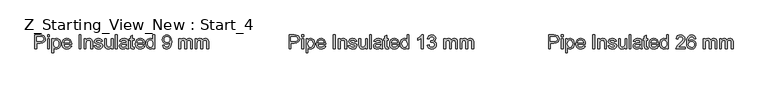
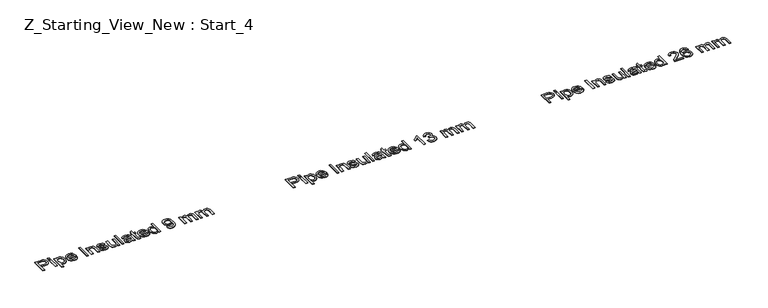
"""IFC4 building model written with IfcOpenShell, lengths in millimetres: pipe fitting geometry, Z_Starting_View_New : Start_4."""

from ifc_helpers import new_model, si_unit, origin, origin_with_axes, place, context, project, spatial, polyline, outline, extrude, source, transform, mapped, element, save


def z_starting_view_new_start_4_8b2e35f7(model_context):
    return source(origin(), model_context, "Body", "SweptSolid", [
        extrude(outline(polyline([(30040.5563046, 7445.7857303), (30040.5563046, 7596.4701955), (30096.4007914, 7596.4701955), (30118.9151695, 7595.0354557), (30137.2172988, 7587.9905155), (30149.0814931, 7573.4223885), (30153.5696535, 7552.8761791), (30150.5392255, 7535.1166757), (30141.4479417, 7520.3186225), (30124.447195, 7510.3306263), (30097.6883784, 7507.0012943), (30059.3918627, 7507.0012943), (30059.3918627, 7445.7857303), (30040.5563046, 7445.7857303)]), holes=[polyline([(30059.3918627, 7525.8368524), (30098.7920244, 7525.8368524), (30115.493867, 7527.5658978), (30126.5303268, 7532.7530339), (30132.6831532, 7541.0763641), (30134.7340953, 7552.2139915), (30129.8964471, 7567.8121881), (30117.1861241, 7576.3470504), (30098.350566, 7577.6346373), (30059.3918627, 7577.6346373), (30059.3918627, 7525.8368524)])]), origin_with_axes(), (0.0, 0.0, 1.0), 5.0),
        extrude(outline(polyline([(30177.1141012, 7445.7857303), (30177.1141012, 7556.4446344), (30195.9496593, 7556.4446344), (30195.9496593, 7445.7857303), (30177.1141012, 7445.7857303)])), origin_with_axes(), (0.0, 0.0, 1.0), 5.0),
        extrude(outline(polyline([(30177.1141012, 7577.6346373), (30177.1141012, 7596.4701955), (30195.9496593, 7596.4701955), (30195.9496593, 7577.6346373), (30177.1141012, 7577.6346373)])), origin_with_axes(), (0.0, 0.0, 1.0), 5.0),
        extrude(outline(polyline([(30224.2029965, 7403.4057244), (30224.2029965, 7556.4446344), (30243.0385547, 7556.4446344), (30243.0385547, 7537.9769583), (30256.0615773, 7553.593549), (30273.6463367, 7558.7990792), (30286.3842508, 7556.9780633), (30297.5218782, 7551.5150157), (30306.5901694, 7542.7410301), (30313.1200748, 7530.9872003), (30318.3807873, 7501.9613109), (30316.8954638, 7485.8526781), (30312.4394931, 7471.4454994), (30305.1554296, 7459.4709405), (30295.1858275, 7450.6601667), (30283.574552, 7445.2385058), (30271.3654683, 7443.4312855), (30254.9763254, 7448.2689337), (30243.0385547, 7460.5010101), (30243.0385547, 7403.4057244), (30224.2029965, 7403.4057244)]), holes=[polyline([(30243.0385547, 7500.2322656), (30245.0757012, 7483.346482), (30251.1871409, 7471.5374699), (30260.2048483, 7464.5845002), (30270.9607981, 7462.2668436), (30281.8914919, 7464.6672737), (30291.1391256, 7471.8685637), (30297.4437033, 7484.1098371), (30299.5452292, 7501.6302171), (30297.494287, 7518.4240302), (30291.3414607, 7530.3985892), (30282.3375488, 7537.5722881), (30271.7333503, 7539.963521), (30261.0877651, 7537.4205367), (30251.7389639, 7529.7915839), (30245.213657, 7517.3157857), (30243.0385547, 7500.2322656)])]), origin_with_axes(), (0.0, 0.0, 1.0), 5.0),
        extrude(outline(polyline([(30417.0467384, 7478.747957), (30435.5144146, 7476.3935123), (30428.860349, 7462.4783758), (30418.2423549, 7452.0765124), (30403.8995556, 7445.5925922), (30386.0710744, 7443.4312855), (30363.9705636, 7447.1606892), (30346.9652183, 7458.3489004), (30336.1218965, 7476.2693521), (30332.5074559, 7500.1954774), (30336.1586847, 7524.9263445), (30347.1123711, 7543.4216118), (30363.8877901, 7554.9547123), (30385.0042166, 7558.7990792), (30405.4630541, 7554.9639094), (30421.8108103, 7543.4584), (30432.5299719, 7524.9999209), (30436.1030258, 7500.305842), (30435.9926612, 7495.2290704), (30351.3430141, 7495.2290704), (30354.6033683, 7481.129993), (30362.1771388, 7470.7649177), (30373.1078326, 7464.3913622), (30386.4389564, 7462.2668436), (30404.9066326, 7466.203181), (30417.0467384, 7478.747957)]), holes=[polyline([(30351.3430141, 7514.0646286), (30417.2674676, 7514.0646286), (30414.7198848, 7524.0158365), (30409.7258867, 7531.1343531), (30398.7446092, 7537.7562291), (30384.9306402, 7539.963521), (30372.2341129, 7538.202286), (30361.7356804, 7532.9185808), (30354.4378214, 7524.6826227), (30351.3430141, 7514.0646286)])]), origin_with_axes(), (0.0, 0.0, 1.0), 5.0),
        extrude(outline(polyline([(30518.5085927, 7445.7857303), (30518.5085927, 7596.4701955), (30537.3441508, 7596.4701955), (30537.3441508, 7445.7857303), (30518.5085927, 7445.7857303)])), origin_with_axes(), (0.0, 0.0, 1.0), 5.0),
        extrude(outline(polyline([(30572.6608224, 7445.7857303), (30572.6608224, 7556.4446344), (30591.4963805, 7556.4446344), (30591.4963805, 7540.9935906), (30605.8989606, 7554.347707), (30625.5622533, 7558.7990792), (30643.3493477, 7555.2122297), (30655.4894536, 7545.7944507), (30661.1364422, 7531.9436935), (30662.1297236, 7513.7335348), (30662.1297236, 7445.7857303), (30643.2941654, 7445.7857303), (30643.2941654, 7511.195149), (30641.1236617, 7527.8602034), (30633.4533221, 7536.6709772), (30620.5222699, 7539.963521), (30609.4904086, 7538.114914), (30600.0864251, 7532.5690929), (30593.6438917, 7521.8545298), (30591.4963805, 7504.4996967), (30591.4963805, 7445.7857303), (30572.6608224, 7445.7857303)])), origin_with_axes(), (0.0, 0.0, 1.0), 5.0),
        extrude(outline(polyline([(30680.9652818, 7478.747957), (30699.8008399, 7481.1024018), (30702.771487, 7473.0457861), (30708.5196432, 7467.122886), (30728.4956355, 7462.2668436), (30747.6990757, 7466.7182158), (30753.9530696, 7477.1660645), (30752.3803741, 7481.9669245), (30747.6622875, 7485.6273503), (30728.2749063, 7490.9984275), (30699.9112045, 7500.2138715), (30687.5319754, 7510.9744198), (30683.3197265, 7526.1679462), (30686.7042409, 7540.2026443), (30695.938079, 7550.9264045), (30707.9126379, 7556.4998167), (30724.1178398, 7558.7990792), (30747.0368881, 7555.1018651), (30761.6050151, 7545.0954749), (30768.0797382, 7528.1912972), (30749.2441801, 7525.8368524), (30742.1624517, 7536.2295188), (30725.5893678, 7539.963521), (30707.56315, 7536.3950657), (30702.1552847, 7528.0809326), (30704.3993648, 7522.5994909), (30711.425911, 7518.4424243), (30727.6495069, 7514.4325106), (30755.2958389, 7505.5665545), (30768.1349205, 7495.523376), (30772.7886278, 7479.1526272), (30767.3255801, 7461.1264095), (30751.5618366, 7448.0482045), (30728.2381181, 7443.4312855), (30709.2462101, 7445.6569716), (30695.386256, 7452.3340298), (30686.1340238, 7463.3888837), (30680.9652818, 7478.747957)])), origin_with_axes(), (0.0, 0.0, 1.0), 5.0),
        extrude(outline(polyline([(30864.6119737, 7445.7857303), (30864.6119737, 7464.8052294), (30849.8599057, 7448.7747715), (30830.6196774, 7443.4312855), (30812.9061593, 7447.1836818), (30800.6924771, 7456.6014609), (30795.0822767, 7470.4706121), (30793.9786307, 7487.9817951), (30793.9786307, 7556.4446344), (30812.8141888, 7556.4446344), (30812.8141888, 7496.8477512), (30813.954623, 7477.644311), (30821.4042334, 7466.3687279), (30835.4389315, 7462.2668436), (30851.1658868, 7466.4606984), (30861.5585532, 7477.8834343), (30864.6119737, 7498.8711022), (30864.6119737, 7556.4446344), (30883.4475319, 7556.4446344), (30883.4475319, 7445.7857303), (30864.6119737, 7445.7857303)])), origin_with_axes(), (0.0, 0.0, 1.0), 5.0),
        extrude(outline(polyline([(30909.3464244, 7445.7857303), (30909.3464244, 7596.4701955), (30928.1819825, 7596.4701955), (30928.1819825, 7445.7857303), (30909.3464244, 7445.7857303)])), origin_with_axes(), (0.0, 0.0, 1.0), 5.0),
        extrude(outline(polyline([(31027.0686628, 7459.9123989), (31008.8033218, 7447.1468936), (30988.6249943, 7443.4312855), (30972.8842435, 7445.6661686), (30961.272968, 7452.370818), (30954.1130646, 7462.5519522), (30951.7264302, 7475.2162899), (30955.3316738, 7490.1155107), (30964.8046351, 7500.9312413), (30977.9932047, 7507.1116589), (30994.290377, 7509.9443502), (31026.9582982, 7516.4190733), (31027.0686628, 7520.6129281), (31025.7718788, 7529.0190317), (31021.8815267, 7534.5188675), (31013.1811175, 7538.6023576), (31001.0594058, 7539.963521), (30982.0031184, 7536.3398834), (30972.9164331, 7523.4824076), (30954.080875, 7525.8368524), (30962.2294612, 7544.2309522), (30978.6369982, 7555.0098946), (31003.4874269, 7558.7990792), (31026.3145047, 7555.451353), (31039.2087687, 7547.0452494), (31044.984516, 7534.2613501), (31045.904221, 7517.7802367), (31045.904221, 7494.3461536), (31046.8607142, 7461.6230502), (31050.6131105, 7445.7857303), (31031.7775524, 7445.7857303), (31027.0686628, 7459.9123989)]), holes=[polyline([(31027.0686628, 7497.5835152), (30996.68161, 7491.8077679), (30980.4764081, 7488.7543473), (30973.1371623, 7483.7879404), (30970.5619884, 7476.5406651), (30976.1721888, 7466.3503338), (30992.6349081, 7462.2668436), (31011.6911954, 7466.7733981), (31023.9784541, 7477.6810992), (31026.9582982, 7492.2492263), (31027.0686628, 7497.5835152)])]), origin_with_axes(), (0.0, 0.0, 1.0), 5.0),
        extrude(outline(polyline([(31111.8286745, 7461.4942915), (31114.1831193, 7445.2339073), (31100.0932389, 7443.4312855), (31084.3111013, 7446.5582825), (31076.4384266, 7454.7620509), (31074.1575582, 7476.1359949), (31074.1575582, 7537.6090763), (31060.0308896, 7537.6090763), (31060.0308896, 7556.4446344), (31074.1575582, 7556.4446344), (31074.1575582, 7583.3368083), (31092.9931164, 7594.4100563), (31092.9931164, 7556.4446344), (31111.8286745, 7556.4446344), (31111.8286745, 7537.6090763), (31092.9931164, 7537.6090763), (31092.9931164, 7476.6878179), (31093.9863977, 7466.9757332), (31097.2053652, 7463.5360365), (31103.624906, 7462.2668436), (31111.8286745, 7461.4942915)])), origin_with_axes(), (0.0, 0.0, 1.0), 5.0),
        extrude(outline(polyline([(31208.1401808, 7478.747957), (31226.607857, 7476.3935123), (31219.9537914, 7462.4783758), (31209.3357973, 7452.0765124), (31194.992998, 7445.5925922), (31177.1645168, 7443.4312855), (31155.064006, 7447.1606892), (31138.0586608, 7458.3489004), (31127.215339, 7476.2693521), (31123.6008984, 7500.1954774), (31127.2521272, 7524.9263445), (31138.2058136, 7543.4216118), (31154.9812325, 7554.9547123), (31176.0976591, 7558.7990792), (31196.5564965, 7554.9639094), (31212.9042527, 7543.4584), (31223.6234143, 7524.9999209), (31227.1964682, 7500.305842), (31227.0861036, 7495.2290704), (31142.4364565, 7495.2290704), (31145.6968107, 7481.129993), (31153.2705813, 7470.7649177), (31164.201275, 7464.3913622), (31177.5323988, 7462.2668436), (31196.000075, 7466.203181), (31208.1401808, 7478.747957)]), holes=[polyline([(31142.4364565, 7514.0646286), (31208.36091, 7514.0646286), (31205.8133272, 7524.0158365), (31200.8193291, 7531.1343531), (31189.8380516, 7537.7562291), (31176.0240827, 7539.963521), (31163.3275553, 7538.202286), (31152.8291229, 7532.9185808), (31145.5312638, 7524.6826227), (31142.4364565, 7514.0646286)])]), origin_with_axes(), (0.0, 0.0, 1.0), 5.0),
        extrude(outline(polyline([(31314.3109247, 7445.7857303), (31314.3109247, 7463.5544306), (31301.8489221, 7448.4620718), (31284.6228476, 7443.4312855), (31272.4459536, 7445.2523014), (31261.2991291, 7450.715349), (31251.862956, 7459.4387508), (31244.8180158, 7471.0408292), (31240.431023, 7485.0525347), (31238.968692, 7501.0048177), (31244.3581633, 7530.9872003), (31251.0904038, 7542.8789858), (31260.5081829, 7551.6253803), (31271.8987291, 7557.0056545), (31284.5492712, 7558.7990792), (31301.9133014, 7553.6671254), (31314.3109247, 7540.331403), (31314.3109247, 7596.4701955), (31333.1464828, 7596.4701955), (31333.1464828, 7445.7857303), (31314.3109247, 7445.7857303)]), holes=[polyline([(31257.8042502, 7501.0783941), (31259.9287687, 7484.0408592), (31266.3023243, 7471.923746), (31275.5637535, 7464.6810692), (31286.351893, 7462.2668436), (31297.135434, 7464.5707046), (31306.1623385, 7471.4822876), (31312.2737781, 7483.1303513), (31314.3109247, 7499.6436544), (31312.2369899, 7517.6974633), (31306.0151857, 7530.2146482), (31296.758355, 7537.5263028), (31285.5793408, 7539.963521), (31274.6808367, 7537.6228718), (31265.7505013, 7530.6009243), (31259.790813, 7518.5389933), (31257.8042502, 7501.0783941)])]), origin_with_axes(), (0.0, 0.0, 1.0), 5.0),
        extrude(outline(polyline([(31486.1853928, 7445.7857303), (31467.3498346, 7445.7857303), (31467.3498346, 7563.2136631), (31449.5075579, 7550.5033402), (31429.6787183, 7540.9935906), (31429.6787183, 7558.7990792), (31457.2882621, 7576.4206268), (31474.045287, 7596.4701955), (31486.1853928, 7596.4701955), (31486.1853928, 7445.7857303)])), origin_with_axes(), (0.0, 0.0, 1.0), 5.0),
        extrude(outline(polyline([(31530.9198434, 7485.8112913), (31549.7554016, 7488.1657361), (31553.9722489, 7476.3291329), (31560.1480679, 7468.3368966), (31568.5863612, 7463.7843569), (31579.5906314, 7462.2668436), (31592.5032894, 7464.354574), (31602.4728915, 7470.6177649), (31608.846447, 7479.9619676), (31610.9709656, 7491.2927331), (31608.8648411, 7502.0486829), (31602.5464679, 7510.7720847), (31592.981536, 7516.5524306), (31581.1357358, 7518.4792125), (31567.9287721, 7516.4190733), (31570.0256995, 7535.2546315), (31573.0423319, 7535.0339023), (31594.4162758, 7540.4417676), (31601.5347924, 7547.3027668), (31603.9076313, 7557.0700338), (31602.1877829, 7565.2048244), (31597.0282379, 7571.8037077), (31589.1555632, 7576.1769049), (31579.2963258, 7577.6346373), (31569.4186942, 7576.1631094), (31561.3436844, 7571.7485254), (31555.4483754, 7564.3908855), (31552.1098463, 7554.0901896), (31533.2742882, 7556.4446344), (31538.8201093, 7573.3580091), (31548.6885438, 7585.9855586), (31562.189813, 7593.8490363), (31578.6341382, 7596.4701955), (31601.3508514, 7591.3014535), (31617.2433536, 7577.1747848), (31622.7431894, 7558.1736798), (31617.5192651, 7540.8096496), (31602.0682213, 7528.33845), (31613.8588392, 7523.5743781), (31622.5960366, 7515.4625802), (31628.0039019, 7504.4445144), (31629.8065237, 7490.9616393), (31626.2012802, 7472.6043277), (31615.3855495, 7457.2636485), (31599.060786, 7446.8893763), (31578.9284438, 7443.4312855), (31560.718285, 7446.3835385), (31545.8926406, 7455.2402975), (31535.5827477, 7468.787552), (31530.9198434, 7485.8112913)])), origin_with_axes(), (0.0, 0.0, 1.0), 5.0),
        extrude(outline(polyline([(31709.8576459, 7445.7857303), (31709.8576459, 7556.4446344), (31728.693204, 7556.4446344), (31728.693204, 7538.2344757), (31741.6426502, 7553.1520906), (31760.0735382, 7558.7990792), (31770.548978, 7557.3597409), (31778.9458846, 7553.041726), (31789.3201568, 7536.9101005), (31804.0170425, 7553.3268345), (31822.5766892, 7558.7990792), (31836.7355475, 7556.5228093), (31847.2063888, 7549.6939998), (31853.6765134, 7538.1287096), (31855.8332216, 7521.6429977), (31855.8332216, 7445.7857303), (31836.9976634, 7445.7857303), (31836.9976634, 7513.5495938), (31835.2502239, 7529.2765491), (31828.9226536, 7537.0204651), (31818.1621052, 7539.963521), (31807.9579784, 7538.0781258), (31799.6392468, 7532.4219401), (31794.1072213, 7522.6086879), (31792.2632128, 7508.252093), (31792.2632128, 7445.7857303), (31773.4276546, 7445.7857303), (31773.4276546, 7515.6465212), (31769.068253, 7533.8934681), (31763.3154983, 7538.4460078), (31754.7760375, 7539.963521), (31740.8333099, 7535.9168191), (31731.5626836, 7524.0710188), (31728.693204, 7501.5934289), (31728.693204, 7445.7857303), (31709.8576459, 7445.7857303)])), origin_with_axes(), (0.0, 0.0, 1.0), 5.0),
        extrude(outline(polyline([(31884.0865588, 7445.7857303), (31884.0865588, 7556.4446344), (31902.9221169, 7556.4446344), (31902.9221169, 7538.2344757), (31915.8715632, 7553.1520906), (31934.3024511, 7558.7990792), (31944.7778909, 7557.3597409), (31953.1747975, 7553.041726), (31963.5490697, 7536.9101005), (31978.2459554, 7553.3268345), (31996.8056021, 7558.7990792), (32010.9644604, 7556.5228093), (32021.4353017, 7549.6939998), (32027.9054263, 7538.1287096), (32030.0621345, 7521.6429977), (32030.0621345, 7445.7857303), (32011.2265763, 7445.7857303), (32011.2265763, 7513.5495938), (32009.4791368, 7529.2765491), (32003.1515665, 7537.0204651), (31992.3910182, 7539.963521), (31982.1868913, 7538.0781258), (31973.8681597, 7532.4219401), (31968.3361342, 7522.6086879), (31966.4921257, 7508.252093), (31966.4921257, 7445.7857303), (31947.6565675, 7445.7857303), (31947.6565675, 7515.6465212), (31943.2971659, 7533.8934681), (31937.5444112, 7538.4460078), (31929.0049504, 7539.963521), (31915.0622228, 7535.9168191), (31905.7915965, 7524.0710188), (31902.9221169, 7501.5934289), (31902.9221169, 7445.7857303), (31884.0865588, 7445.7857303)])), origin_with_axes(), (0.0, 0.0, 1.0), 5.0),
        extrude(outline(polyline([(32840.5563046, 7445.7857303), (32840.5563046, 7596.4701955), (32896.4007914, 7596.4701955), (32918.9151695, 7595.0354557), (32937.2172988, 7587.9905155), (32949.0814931, 7573.4223885), (32953.5696535, 7552.8761791), (32950.5392255, 7535.1166757), (32941.4479417, 7520.3186225), (32924.447195, 7510.3306263), (32897.6883784, 7507.0012943), (32859.3918627, 7507.0012943), (32859.3918627, 7445.7857303), (32840.5563046, 7445.7857303)]), holes=[polyline([(32859.3918627, 7525.8368524), (32898.7920244, 7525.8368524), (32915.493867, 7527.5658978), (32926.5303268, 7532.7530339), (32932.6831532, 7541.0763641), (32934.7340953, 7552.2139915), (32929.8964471, 7567.8121881), (32917.1861241, 7576.3470504), (32898.350566, 7577.6346373), (32859.3918627, 7577.6346373), (32859.3918627, 7525.8368524)])]), origin_with_axes(), (0.0, 0.0, 1.0), 5.0),
        extrude(outline(polyline([(32977.1141012, 7445.7857303), (32977.1141012, 7556.4446344), (32995.9496593, 7556.4446344), (32995.9496593, 7445.7857303), (32977.1141012, 7445.7857303)])), origin_with_axes(), (0.0, 0.0, 1.0), 5.0),
        extrude(outline(polyline([(32977.1141012, 7577.6346373), (32977.1141012, 7596.4701955), (32995.9496593, 7596.4701955), (32995.9496593, 7577.6346373), (32977.1141012, 7577.6346373)])), origin_with_axes(), (0.0, 0.0, 1.0), 5.0),
        extrude(outline(polyline([(33024.2029965, 7403.4057244), (33024.2029965, 7556.4446344), (33043.0385547, 7556.4446344), (33043.0385547, 7537.9769583), (33056.0615773, 7553.593549), (33073.6463367, 7558.7990792), (33086.3842508, 7556.9780633), (33097.5218782, 7551.5150157), (33106.5901694, 7542.7410301), (33113.1200748, 7530.9872003), (33118.3807873, 7501.9613109), (33116.8954638, 7485.8526781), (33112.4394931, 7471.4454994), (33105.1554296, 7459.4709405), (33095.1858275, 7450.6601667), (33083.574552, 7445.2385058), (33071.3654683, 7443.4312855), (33054.9763254, 7448.2689337), (33043.0385547, 7460.5010101), (33043.0385547, 7403.4057244), (33024.2029965, 7403.4057244)]), holes=[polyline([(33043.0385547, 7500.2322656), (33045.0757012, 7483.346482), (33051.1871409, 7471.5374699), (33060.2048483, 7464.5845002), (33070.9607981, 7462.2668436), (33081.8914919, 7464.6672737), (33091.1391256, 7471.8685637), (33097.4437033, 7484.1098371), (33099.5452292, 7501.6302171), (33097.494287, 7518.4240302), (33091.3414607, 7530.3985892), (33082.3375488, 7537.5722881), (33071.7333503, 7539.963521), (33061.0877651, 7537.4205367), (33051.7389639, 7529.7915839), (33045.213657, 7517.3157857), (33043.0385547, 7500.2322656)])]), origin_with_axes(), (0.0, 0.0, 1.0), 5.0),
        extrude(outline(polyline([(33217.0467384, 7478.747957), (33235.5144146, 7476.3935123), (33228.860349, 7462.4783758), (33218.2423549, 7452.0765124), (33203.8995556, 7445.5925922), (33186.0710744, 7443.4312855), (33163.9705636, 7447.1606892), (33146.9652183, 7458.3489004), (33136.1218965, 7476.2693521), (33132.5074559, 7500.1954774), (33136.1586847, 7524.9263445), (33147.1123711, 7543.4216118), (33163.8877901, 7554.9547123), (33185.0042166, 7558.7990792), (33205.4630541, 7554.9639094), (33221.8108103, 7543.4584), (33232.5299719, 7524.9999209), (33236.1030258, 7500.305842), (33235.9926612, 7495.2290704), (33151.3430141, 7495.2290704), (33154.6033683, 7481.129993), (33162.1771388, 7470.7649177), (33173.1078326, 7464.3913622), (33186.4389564, 7462.2668436), (33204.9066326, 7466.203181), (33217.0467384, 7478.747957)]), holes=[polyline([(33151.3430141, 7514.0646286), (33217.2674676, 7514.0646286), (33214.7198848, 7524.0158365), (33209.7258867, 7531.1343531), (33198.7446092, 7537.7562291), (33184.9306402, 7539.963521), (33172.2341129, 7538.202286), (33161.7356804, 7532.9185808), (33154.4378214, 7524.6826227), (33151.3430141, 7514.0646286)])]), origin_with_axes(), (0.0, 0.0, 1.0), 5.0),
        extrude(outline(polyline([(33318.5085927, 7445.7857303), (33318.5085927, 7596.4701955), (33337.3441508, 7596.4701955), (33337.3441508, 7445.7857303), (33318.5085927, 7445.7857303)])), origin_with_axes(), (0.0, 0.0, 1.0), 5.0),
        extrude(outline(polyline([(33372.6608224, 7445.7857303), (33372.6608224, 7556.4446344), (33391.4963805, 7556.4446344), (33391.4963805, 7540.9935906), (33405.8989606, 7554.347707), (33425.5622533, 7558.7990792), (33443.3493477, 7555.2122297), (33455.4894536, 7545.7944507), (33461.1364422, 7531.9436935), (33462.1297236, 7513.7335348), (33462.1297236, 7445.7857303), (33443.2941654, 7445.7857303), (33443.2941654, 7511.195149), (33441.1236617, 7527.8602034), (33433.4533221, 7536.6709772), (33420.5222699, 7539.963521), (33409.4904086, 7538.114914), (33400.0864251, 7532.5690929), (33393.6438917, 7521.8545298), (33391.4963805, 7504.4996967), (33391.4963805, 7445.7857303), (33372.6608224, 7445.7857303)])), origin_with_axes(), (0.0, 0.0, 1.0), 5.0),
        extrude(outline(polyline([(33480.9652818, 7478.747957), (33499.8008399, 7481.1024018), (33502.771487, 7473.0457861), (33508.5196432, 7467.122886), (33528.4956355, 7462.2668436), (33547.6990757, 7466.7182158), (33553.9530696, 7477.1660645), (33552.3803741, 7481.9669245), (33547.6622875, 7485.6273503), (33528.2749063, 7490.9984275), (33499.9112045, 7500.2138715), (33487.5319754, 7510.9744198), (33483.3197265, 7526.1679462), (33486.7042409, 7540.2026443), (33495.938079, 7550.9264045), (33507.9126379, 7556.4998167), (33524.1178398, 7558.7990792), (33547.0368881, 7555.1018651), (33561.6050151, 7545.0954749), (33568.0797382, 7528.1912972), (33549.2441801, 7525.8368524), (33542.1624517, 7536.2295188), (33525.5893678, 7539.963521), (33507.56315, 7536.3950657), (33502.1552847, 7528.0809326), (33504.3993648, 7522.5994909), (33511.425911, 7518.4424243), (33527.6495069, 7514.4325106), (33555.2958389, 7505.5665545), (33568.1349205, 7495.523376), (33572.7886278, 7479.1526272), (33567.3255801, 7461.1264095), (33551.5618366, 7448.0482045), (33528.2381181, 7443.4312855), (33509.2462101, 7445.6569716), (33495.386256, 7452.3340298), (33486.1340238, 7463.3888837), (33480.9652818, 7478.747957)])), origin_with_axes(), (0.0, 0.0, 1.0), 5.0),
        extrude(outline(polyline([(33664.6119737, 7445.7857303), (33664.6119737, 7464.8052294), (33649.8599057, 7448.7747715), (33630.6196774, 7443.4312855), (33612.9061593, 7447.1836818), (33600.6924771, 7456.6014609), (33595.0822767, 7470.4706121), (33593.9786307, 7487.9817951), (33593.9786307, 7556.4446344), (33612.8141888, 7556.4446344), (33612.8141888, 7496.8477512), (33613.954623, 7477.644311), (33621.4042334, 7466.3687279), (33635.4389315, 7462.2668436), (33651.1658868, 7466.4606984), (33661.5585532, 7477.8834343), (33664.6119737, 7498.8711022), (33664.6119737, 7556.4446344), (33683.4475319, 7556.4446344), (33683.4475319, 7445.7857303), (33664.6119737, 7445.7857303)])), origin_with_axes(), (0.0, 0.0, 1.0), 5.0),
        extrude(outline(polyline([(33709.3464244, 7445.7857303), (33709.3464244, 7596.4701955), (33728.1819825, 7596.4701955), (33728.1819825, 7445.7857303), (33709.3464244, 7445.7857303)])), origin_with_axes(), (0.0, 0.0, 1.0), 5.0),
        extrude(outline(polyline([(33827.0686628, 7459.9123989), (33808.8033218, 7447.1468936), (33788.6249943, 7443.4312855), (33772.8842435, 7445.6661686), (33761.272968, 7452.370818), (33754.1130646, 7462.5519522), (33751.7264302, 7475.2162899), (33755.3316738, 7490.1155107), (33764.8046351, 7500.9312413), (33777.9932047, 7507.1116589), (33794.290377, 7509.9443502), (33826.9582982, 7516.4190733), (33827.0686628, 7520.6129281), (33825.7718788, 7529.0190317), (33821.8815267, 7534.5188675), (33813.1811175, 7538.6023576), (33801.0594058, 7539.963521), (33782.0031184, 7536.3398834), (33772.9164331, 7523.4824076), (33754.080875, 7525.8368524), (33762.2294612, 7544.2309522), (33778.6369982, 7555.0098946), (33803.4874269, 7558.7990792), (33826.3145047, 7555.451353), (33839.2087687, 7547.0452494), (33844.984516, 7534.2613501), (33845.904221, 7517.7802367), (33845.904221, 7494.3461536), (33846.8607142, 7461.6230502), (33850.6131105, 7445.7857303), (33831.7775524, 7445.7857303), (33827.0686628, 7459.9123989)]), holes=[polyline([(33827.0686628, 7497.5835152), (33796.68161, 7491.8077679), (33780.4764081, 7488.7543473), (33773.1371623, 7483.7879404), (33770.5619884, 7476.5406651), (33776.1721888, 7466.3503338), (33792.6349081, 7462.2668436), (33811.6911954, 7466.7733981), (33823.9784541, 7477.6810992), (33826.9582982, 7492.2492263), (33827.0686628, 7497.5835152)])]), origin_with_axes(), (0.0, 0.0, 1.0), 5.0),
        extrude(outline(polyline([(33911.8286745, 7461.4942915), (33914.1831193, 7445.2339073), (33900.0932389, 7443.4312855), (33884.3111013, 7446.5582825), (33876.4384266, 7454.7620509), (33874.1575582, 7476.1359949), (33874.1575582, 7537.6090763), (33860.0308896, 7537.6090763), (33860.0308896, 7556.4446344), (33874.1575582, 7556.4446344), (33874.1575582, 7583.3368083), (33892.9931164, 7594.4100563), (33892.9931164, 7556.4446344), (33911.8286745, 7556.4446344), (33911.8286745, 7537.6090763), (33892.9931164, 7537.6090763), (33892.9931164, 7476.6878179), (33893.9863977, 7466.9757332), (33897.2053652, 7463.5360365), (33903.624906, 7462.2668436), (33911.8286745, 7461.4942915)])), origin_with_axes(), (0.0, 0.0, 1.0), 5.0),
        extrude(outline(polyline([(34008.1401808, 7478.747957), (34026.607857, 7476.3935123), (34019.9537914, 7462.4783758), (34009.3357973, 7452.0765124), (33994.992998, 7445.5925922), (33977.1645168, 7443.4312855), (33955.064006, 7447.1606892), (33938.0586608, 7458.3489004), (33927.215339, 7476.2693521), (33923.6008984, 7500.1954774), (33927.2521272, 7524.9263445), (33938.2058136, 7543.4216118), (33954.9812325, 7554.9547123), (33976.0976591, 7558.7990792), (33996.5564965, 7554.9639094), (34012.9042527, 7543.4584), (34023.6234143, 7524.9999209), (34027.1964682, 7500.305842), (34027.0861036, 7495.2290704), (33942.4364565, 7495.2290704), (33945.6968107, 7481.129993), (33953.2705813, 7470.7649177), (33964.201275, 7464.3913622), (33977.5323988, 7462.2668436), (33996.000075, 7466.203181), (34008.1401808, 7478.747957)]), holes=[polyline([(33942.4364565, 7514.0646286), (34008.36091, 7514.0646286), (34005.8133272, 7524.0158365), (34000.8193291, 7531.1343531), (33989.8380516, 7537.7562291), (33976.0240827, 7539.963521), (33963.3275553, 7538.202286), (33952.8291229, 7532.9185808), (33945.5312638, 7524.6826227), (33942.4364565, 7514.0646286)])]), origin_with_axes(), (0.0, 0.0, 1.0), 5.0),
        extrude(outline(polyline([(34114.3109247, 7445.7857303), (34114.3109247, 7463.5544306), (34101.8489221, 7448.4620718), (34084.6228476, 7443.4312855), (34072.4459536, 7445.2523014), (34061.2991291, 7450.715349), (34051.862956, 7459.4387508), (34044.8180158, 7471.0408292), (34040.431023, 7485.0525347), (34038.968692, 7501.0048177), (34044.3581633, 7530.9872003), (34051.0904038, 7542.8789858), (34060.5081829, 7551.6253803), (34071.8987291, 7557.0056545), (34084.5492712, 7558.7990792), (34101.9133014, 7553.6671254), (34114.3109247, 7540.331403), (34114.3109247, 7596.4701955), (34133.1464828, 7596.4701955), (34133.1464828, 7445.7857303), (34114.3109247, 7445.7857303)]), holes=[polyline([(34057.8042502, 7501.0783941), (34059.9287687, 7484.0408592), (34066.3023243, 7471.923746), (34075.5637535, 7464.6810692), (34086.351893, 7462.2668436), (34097.135434, 7464.5707046), (34106.1623385, 7471.4822876), (34112.2737781, 7483.1303513), (34114.3109247, 7499.6436544), (34112.2369899, 7517.6974633), (34106.0151857, 7530.2146482), (34096.758355, 7537.5263028), (34085.5793408, 7539.963521), (34074.6808367, 7537.6228718), (34065.7505013, 7530.6009243), (34059.790813, 7518.5389933), (34057.8042502, 7501.0783941)])]), origin_with_axes(), (0.0, 0.0, 1.0), 5.0),
        extrude(outline(polyline([(34312.0842853, 7464.6212884), (34312.0842853, 7445.7857303), (34213.197605, 7445.7857303), (34215.2209559, 7458.7719647), (34226.662086, 7478.7663511), (34250.2433219, 7500.6001475), (34282.7640902, 7531.9804817), (34288.8617343, 7542.7962124), (34290.8942823, 7553.3176375), (34288.9766974, 7562.7492121), (34283.2239427, 7570.5896971), (34274.3809793, 7575.8734023), (34263.1927681, 7577.6346373), (34251.4435369, 7575.914789), (34242.3154649, 7570.755244), (34236.4247544, 7562.5606726), (34234.3876079, 7551.7357449), (34215.5520497, 7554.0901896), (34220.118385, 7572.3095455), (34229.991418, 7585.6176766), (34244.6561141, 7593.7570658), (34263.5974383, 7596.4701955), (34282.6767183, 7593.4535631), (34297.3138232, 7584.403666), (34306.6258362, 7570.8840027), (34309.7298405, 7554.4580716), (34306.3821143, 7536.5974008), (34295.253684, 7518.1297246), (34268.2695396, 7492.3228027), (34246.6012901, 7474.2046144), (34238.103216, 7464.6212884), (34312.0842853, 7464.6212884)])), origin_with_axes(), (0.0, 0.0, 1.0), 5.0),
        extrude(outline(polyline([(34427.4520789, 7556.4446344), (34408.6165208, 7554.0901896), (34401.4796101, 7569.7987508), (34392.9355507, 7575.6756657), (34382.6072637, 7577.6346373), (34365.6111156, 7573.0729006), (34352.7536398, 7555.9479937), (34348.8494922, 7541.9178941), (34347.4009568, 7522.3787617), (34364.0108289, 7537.4067412), (34384.5938265, 7542.3179658), (34401.9946449, 7538.9610426), (34416.5995601, 7528.890273), (34426.5047828, 7513.5036085), (34429.8065237, 7494.1990008), (34428.2522223, 7480.7115272), (34423.589318, 7468.2081379), (34416.2040869, 7457.6039394), (34406.4828052, 7449.8140381), (34394.8669312, 7445.0269737), (34381.7979233, 7443.4312855), (34360.4285779, 7447.6619284), (34343.4094371, 7460.3538573), (34332.2764083, 7482.7578708), (34328.5653986, 7516.1247677), (34332.685677, 7553.6395342), (34345.046512, 7579.2901063), (34361.9230986, 7592.1751732), (34383.7844861, 7596.4701955), (34400.3115848, 7593.8122481), (34413.5461395, 7585.8384058), (34422.8167658, 7573.1740681), (34427.4520789, 7556.4446344)]), holes=[polyline([(34347.4009568, 7494.4933064), (34351.7603584, 7478.1777399), (34363.3486413, 7466.3319397), (34380.3263954, 7462.2668436), (34392.7562083, 7464.3729681), (34402.5280738, 7470.6913413), (34408.8602426, 7480.6241552), (34410.9709656, 7493.5736014), (34408.8878338, 7506.0034144), (34402.6384384, 7515.4809743), (34392.701026, 7521.4820493), (34379.5538432, 7523.4824076), (34367.1424244, 7521.4820493), (34356.7635536, 7515.4809743), (34349.741606, 7506.2333406), (34347.4009568, 7494.4933064)])]), origin_with_axes(), (0.0, 0.0, 1.0), 5.0),
        extrude(outline(polyline([(34509.8576459, 7445.7857303), (34509.8576459, 7556.4446344), (34528.693204, 7556.4446344), (34528.693204, 7538.2344757), (34541.6426502, 7553.1520906), (34560.0735382, 7558.7990792), (34570.548978, 7557.3597409), (34578.9458846, 7553.041726), (34589.3201568, 7536.9101005), (34604.0170425, 7553.3268345), (34622.5766892, 7558.7990792), (34636.7355475, 7556.5228093), (34647.2063888, 7549.6939998), (34653.6765134, 7538.1287096), (34655.8332216, 7521.6429977), (34655.8332216, 7445.7857303), (34636.9976634, 7445.7857303), (34636.9976634, 7513.5495938), (34635.2502239, 7529.2765491), (34628.9226536, 7537.0204651), (34618.1621052, 7539.963521), (34607.9579784, 7538.0781258), (34599.6392468, 7532.4219401), (34594.1072213, 7522.6086879), (34592.2632128, 7508.252093), (34592.2632128, 7445.7857303), (34573.4276546, 7445.7857303), (34573.4276546, 7515.6465212), (34569.068253, 7533.8934681), (34563.3154983, 7538.4460078), (34554.7760375, 7539.963521), (34540.8333099, 7535.9168191), (34531.5626836, 7524.0710188), (34528.693204, 7501.5934289), (34528.693204, 7445.7857303), (34509.8576459, 7445.7857303)])), origin_with_axes(), (0.0, 0.0, 1.0), 5.0),
        extrude(outline(polyline([(34684.0865588, 7445.7857303), (34684.0865588, 7556.4446344), (34702.9221169, 7556.4446344), (34702.9221169, 7538.2344757), (34715.8715632, 7553.1520906), (34734.3024511, 7558.7990792), (34744.7778909, 7557.3597409), (34753.1747975, 7553.041726), (34763.5490697, 7536.9101005), (34778.2459554, 7553.3268345), (34796.8056021, 7558.7990792), (34810.9644604, 7556.5228093), (34821.4353017, 7549.6939998), (34827.9054263, 7538.1287096), (34830.0621345, 7521.6429977), (34830.0621345, 7445.7857303), (34811.2265763, 7445.7857303), (34811.2265763, 7513.5495938), (34809.4791368, 7529.2765491), (34803.1515665, 7537.0204651), (34792.3910182, 7539.963521), (34782.1868913, 7538.0781258), (34773.8681597, 7532.4219401), (34768.3361342, 7522.6086879), (34766.4921257, 7508.252093), (34766.4921257, 7445.7857303), (34747.6565675, 7445.7857303), (34747.6565675, 7515.6465212), (34743.2971659, 7533.8934681), (34737.5444112, 7538.4460078), (34729.0049504, 7539.963521), (34715.0622228, 7535.9168191), (34705.7915965, 7524.0710188), (34702.9221169, 7501.5934289), (34702.9221169, 7445.7857303), (34684.0865588, 7445.7857303)])), origin_with_axes(), (0.0, 0.0, 1.0), 5.0),
        extrude(outline(polyline([(27298.2402014, 7445.7857303), (27298.2402014, 7596.4701955), (27354.0846883, 7596.4701955), (27376.5990664, 7595.0354557), (27394.9011956, 7587.9905155), (27406.76539, 7573.4223885), (27411.2535503, 7552.8761791), (27408.2231224, 7535.1166757), (27399.1318386, 7520.3186225), (27382.1310919, 7510.3306263), (27355.3722752, 7507.0012943), (27317.0757595, 7507.0012943), (27317.0757595, 7445.7857303), (27298.2402014, 7445.7857303)]), holes=[polyline([(27317.0757595, 7525.8368524), (27356.4759212, 7525.8368524), (27373.1777638, 7527.5658978), (27384.2142237, 7532.7530339), (27390.36705, 7541.0763641), (27392.4179922, 7552.2139915), (27387.5803439, 7567.8121881), (27374.870021, 7576.3470504), (27356.0344628, 7577.6346373), (27317.0757595, 7577.6346373), (27317.0757595, 7525.8368524)])]), origin_with_axes(), (0.0, 0.0, 1.0), 5.0),
        extrude(outline(polyline([(27434.797998, 7445.7857303), (27434.797998, 7556.4446344), (27453.6335562, 7556.4446344), (27453.6335562, 7445.7857303), (27434.797998, 7445.7857303)])), origin_with_axes(), (0.0, 0.0, 1.0), 5.0),
        extrude(outline(polyline([(27434.797998, 7577.6346373), (27434.797998, 7596.4701955), (27453.6335562, 7596.4701955), (27453.6335562, 7577.6346373), (27434.797998, 7577.6346373)])), origin_with_axes(), (0.0, 0.0, 1.0), 5.0),
        extrude(outline(polyline([(27481.8868934, 7403.4057244), (27481.8868934, 7556.4446344), (27500.7224515, 7556.4446344), (27500.7224515, 7537.9769583), (27513.7454742, 7553.593549), (27531.3302335, 7558.7990792), (27544.0681476, 7556.9780633), (27555.205775, 7551.5150157), (27564.2740662, 7542.7410301), (27570.8039716, 7530.9872003), (27576.0646842, 7501.9613109), (27574.5793606, 7485.8526781), (27570.1233899, 7471.4454994), (27562.8393264, 7459.4709405), (27552.8697244, 7450.6601667), (27541.2584489, 7445.2385058), (27529.0493652, 7443.4312855), (27512.6602223, 7448.2689337), (27500.7224515, 7460.5010101), (27500.7224515, 7403.4057244), (27481.8868934, 7403.4057244)]), holes=[polyline([(27500.7224515, 7500.2322656), (27502.7595981, 7483.346482), (27508.8710377, 7471.5374699), (27517.8887451, 7464.5845002), (27528.644695, 7462.2668436), (27539.5753888, 7464.6672737), (27548.8230224, 7471.8685637), (27555.1276001, 7484.1098371), (27557.229126, 7501.6302171), (27555.1781839, 7518.4240302), (27549.0253575, 7530.3985892), (27540.0214457, 7537.5722881), (27529.4172472, 7539.963521), (27518.7716619, 7537.4205367), (27509.4228607, 7529.7915839), (27502.8975538, 7517.3157857), (27500.7224515, 7500.2322656)])]), origin_with_axes(), (0.0, 0.0, 1.0), 5.0),
        extrude(outline(polyline([(27674.7306353, 7478.747957), (27693.1983114, 7476.3935123), (27686.5442458, 7462.4783758), (27675.9262517, 7452.0765124), (27661.5834525, 7445.5925922), (27643.7549713, 7443.4312855), (27621.6544604, 7447.1606892), (27604.6491152, 7458.3489004), (27593.8057934, 7476.2693521), (27590.1913528, 7500.1954774), (27593.8425816, 7524.9263445), (27604.796268, 7543.4216118), (27621.571687, 7554.9547123), (27642.6881135, 7558.7990792), (27663.1469509, 7554.9639094), (27679.4947071, 7543.4584), (27690.2138687, 7524.9999209), (27693.7869226, 7500.305842), (27693.676558, 7495.2290704), (27609.0269109, 7495.2290704), (27612.2872651, 7481.129993), (27619.8610357, 7470.7649177), (27630.7917295, 7464.3913622), (27644.1228533, 7462.2668436), (27662.5905294, 7466.203181), (27674.7306353, 7478.747957)]), holes=[polyline([(27609.0269109, 7514.0646286), (27674.9513645, 7514.0646286), (27672.4037816, 7524.0158365), (27667.4097836, 7531.1343531), (27656.428506, 7537.7562291), (27642.6145371, 7539.963521), (27629.9180097, 7538.202286), (27619.4195773, 7532.9185808), (27612.1217182, 7524.6826227), (27609.0269109, 7514.0646286)])]), origin_with_axes(), (0.0, 0.0, 1.0), 5.0),
        extrude(outline(polyline([(27776.1924895, 7445.7857303), (27776.1924895, 7596.4701955), (27795.0280477, 7596.4701955), (27795.0280477, 7445.7857303), (27776.1924895, 7445.7857303)])), origin_with_axes(), (0.0, 0.0, 1.0), 5.0),
        extrude(outline(polyline([(27830.3447192, 7445.7857303), (27830.3447192, 7556.4446344), (27849.1802774, 7556.4446344), (27849.1802774, 7540.9935906), (27863.5828575, 7554.347707), (27883.2461501, 7558.7990792), (27901.0332446, 7555.2122297), (27913.1733504, 7545.7944507), (27918.8203391, 7531.9436935), (27919.8136204, 7513.7335348), (27919.8136204, 7445.7857303), (27900.9780623, 7445.7857303), (27900.9780623, 7511.195149), (27898.8075585, 7527.8602034), (27891.1372189, 7536.6709772), (27878.2061668, 7539.963521), (27867.1743055, 7538.114914), (27857.770322, 7532.5690929), (27851.3277885, 7521.8545298), (27849.1802774, 7504.4996967), (27849.1802774, 7445.7857303), (27830.3447192, 7445.7857303)])), origin_with_axes(), (0.0, 0.0, 1.0), 5.0),
        extrude(outline(polyline([(27938.6491786, 7478.747957), (27957.4847368, 7481.1024018), (27960.4553839, 7473.0457861), (27966.20354, 7467.122886), (27986.1795324, 7462.2668436), (28005.3829725, 7466.7182158), (28011.6369664, 7477.1660645), (28010.0642709, 7481.9669245), (28005.3461843, 7485.6273503), (27985.9588032, 7490.9984275), (27957.5951014, 7500.2138715), (27945.2158722, 7510.9744198), (27941.0036234, 7526.1679462), (27944.3881377, 7540.2026443), (27953.6219758, 7550.9264045), (27965.5965347, 7556.4998167), (27981.8017366, 7558.7990792), (28004.7207849, 7555.1018651), (28019.2889119, 7545.0954749), (28025.7636351, 7528.1912972), (28006.9280769, 7525.8368524), (27999.8463485, 7536.2295188), (27983.2732646, 7539.963521), (27965.2470468, 7536.3950657), (27959.8391815, 7528.0809326), (27962.0832617, 7522.5994909), (27969.1098078, 7518.4424243), (27985.3334038, 7514.4325106), (28012.9797357, 7505.5665545), (28025.8188174, 7495.523376), (28030.4725246, 7479.1526272), (28025.009477, 7461.1264095), (28009.2457335, 7448.0482045), (27985.922015, 7443.4312855), (27966.930107, 7445.6569716), (27953.0701528, 7452.3340298), (27943.8179206, 7463.3888837), (27938.6491786, 7478.747957)])), origin_with_axes(), (0.0, 0.0, 1.0), 5.0),
        extrude(outline(polyline([(28122.2958706, 7445.7857303), (28122.2958706, 7464.8052294), (28107.5438026, 7448.7747715), (28088.3035742, 7443.4312855), (28070.5900562, 7447.1836818), (28058.3763739, 7456.6014609), (28052.7661735, 7470.4706121), (28051.6625275, 7487.9817951), (28051.6625275, 7556.4446344), (28070.4980857, 7556.4446344), (28070.4980857, 7496.8477512), (28071.6385199, 7477.644311), (28079.0881303, 7466.3687279), (28093.1228284, 7462.2668436), (28108.8497837, 7466.4606984), (28119.24245, 7477.8834343), (28122.2958706, 7498.8711022), (28122.2958706, 7556.4446344), (28141.1314287, 7556.4446344), (28141.1314287, 7445.7857303), (28122.2958706, 7445.7857303)])), origin_with_axes(), (0.0, 0.0, 1.0), 5.0),
        extrude(outline(polyline([(28167.0303212, 7445.7857303), (28167.0303212, 7596.4701955), (28185.8658794, 7596.4701955), (28185.8658794, 7445.7857303), (28167.0303212, 7445.7857303)])), origin_with_axes(), (0.0, 0.0, 1.0), 5.0),
        extrude(outline(polyline([(28284.7525597, 7459.9123989), (28266.4872186, 7447.1468936), (28246.3088912, 7443.4312855), (28230.5681403, 7445.6661686), (28218.9568648, 7452.370818), (28211.7969615, 7462.5519522), (28209.410327, 7475.2162899), (28213.0155706, 7490.1155107), (28222.488532, 7500.9312413), (28235.6771015, 7507.1116589), (28251.9742739, 7509.9443502), (28284.6421951, 7516.4190733), (28284.7525597, 7520.6129281), (28283.4557756, 7529.0190317), (28279.5654235, 7534.5188675), (28270.8650143, 7538.6023576), (28258.7433026, 7539.963521), (28239.6870153, 7536.3398834), (28230.60033, 7523.4824076), (28211.7647718, 7525.8368524), (28219.913358, 7544.2309522), (28236.320895, 7555.0098946), (28261.1713238, 7558.7990792), (28283.9984016, 7555.451353), (28296.8926655, 7547.0452494), (28302.6684128, 7534.2613501), (28303.5881178, 7517.7802367), (28303.5881178, 7494.3461536), (28304.544611, 7461.6230502), (28308.2970074, 7445.7857303), (28289.4614492, 7445.7857303), (28284.7525597, 7459.9123989)]), holes=[polyline([(28284.7525597, 7497.5835152), (28254.3655069, 7491.8077679), (28238.160305, 7488.7543473), (28230.8210592, 7483.7879404), (28228.2458852, 7476.5406651), (28233.8560856, 7466.3503338), (28250.3188049, 7462.2668436), (28269.3750923, 7466.7733981), (28281.6623509, 7477.6810992), (28284.6421951, 7492.2492263), (28284.7525597, 7497.5835152)])]), origin_with_axes(), (0.0, 0.0, 1.0), 5.0),
        extrude(outline(polyline([(28369.5125713, 7461.4942915), (28371.8670161, 7445.2339073), (28357.7771357, 7443.4312855), (28341.9949981, 7446.5582825), (28334.1223234, 7454.7620509), (28331.841455, 7476.1359949), (28331.841455, 7537.6090763), (28317.7147864, 7537.6090763), (28317.7147864, 7556.4446344), (28331.841455, 7556.4446344), (28331.841455, 7583.3368083), (28350.6770132, 7594.4100563), (28350.6770132, 7556.4446344), (28369.5125713, 7556.4446344), (28369.5125713, 7537.6090763), (28350.6770132, 7537.6090763), (28350.6770132, 7476.6878179), (28351.6702946, 7466.9757332), (28354.889262, 7463.5360365), (28361.3088029, 7462.2668436), (28369.5125713, 7461.4942915)])), origin_with_axes(), (0.0, 0.0, 1.0), 5.0),
        extrude(outline(polyline([(28465.8240777, 7478.747957), (28484.2917538, 7476.3935123), (28477.6376883, 7462.4783758), (28467.0196942, 7452.0765124), (28452.6768949, 7445.5925922), (28434.8484137, 7443.4312855), (28412.7479028, 7447.1606892), (28395.7425576, 7458.3489004), (28384.8992358, 7476.2693521), (28381.2847952, 7500.1954774), (28384.936024, 7524.9263445), (28395.8897104, 7543.4216118), (28412.6651294, 7554.9547123), (28433.7815559, 7558.7990792), (28454.2403934, 7554.9639094), (28470.5881495, 7543.4584), (28481.3073112, 7524.9999209), (28484.880365, 7500.305842), (28484.7700004, 7495.2290704), (28400.1203533, 7495.2290704), (28403.3807075, 7481.129993), (28410.9544781, 7470.7649177), (28421.8851719, 7464.3913622), (28435.2162957, 7462.2668436), (28453.6839718, 7466.203181), (28465.8240777, 7478.747957)]), holes=[polyline([(28400.1203533, 7514.0646286), (28466.0448069, 7514.0646286), (28463.4972241, 7524.0158365), (28458.503226, 7531.1343531), (28447.5219484, 7537.7562291), (28433.7079795, 7539.963521), (28421.0114521, 7538.202286), (28410.5130197, 7532.9185808), (28403.2151606, 7524.6826227), (28400.1203533, 7514.0646286)])]), origin_with_axes(), (0.0, 0.0, 1.0), 5.0),
        extrude(outline(polyline([(28571.9948215, 7445.7857303), (28571.9948215, 7463.5544306), (28559.5328189, 7448.4620718), (28542.3067445, 7443.4312855), (28530.1298504, 7445.2523014), (28518.983026, 7450.715349), (28509.5468528, 7459.4387508), (28502.5019126, 7471.0408292), (28498.1149198, 7485.0525347), (28496.6525889, 7501.0048177), (28502.0420601, 7530.9872003), (28508.7743006, 7542.8789858), (28518.1920797, 7551.6253803), (28529.582626, 7557.0056545), (28542.2331681, 7558.7990792), (28559.5971983, 7553.6671254), (28571.9948215, 7540.331403), (28571.9948215, 7596.4701955), (28590.8303796, 7596.4701955), (28590.8303796, 7445.7857303), (28571.9948215, 7445.7857303)]), holes=[polyline([(28515.488147, 7501.0783941), (28517.6126656, 7484.0408592), (28523.9862211, 7471.923746), (28533.2476504, 7464.6810692), (28544.0357899, 7462.2668436), (28554.8193308, 7464.5707046), (28563.8462353, 7471.4822876), (28569.9576749, 7483.1303513), (28571.9948215, 7499.6436544), (28569.9208867, 7517.6974633), (28563.6990825, 7530.2146482), (28554.4422518, 7537.5263028), (28543.2632377, 7539.963521), (28532.3647336, 7537.6228718), (28523.4343981, 7530.6009243), (28517.4747098, 7518.5389933), (28515.488147, 7501.0783941)])]), origin_with_axes(), (0.0, 0.0, 1.0), 5.0),
        extrude(outline(polyline([(28675.5903913, 7483.4568466), (28694.4259495, 7485.8112913), (28697.6449169, 7475.1197209), (28702.8872354, 7467.8402559), (28710.0241461, 7463.6601967), (28718.9268904, 7462.2668436), (28734.1755991, 7465.8536931), (28744.5130831, 7475.4370191), (28750.6751066, 7491.8077679), (28753.3974333, 7513.6599584), (28753.2870687, 7517.3387783), (28738.222301, 7503.0649569), (28717.565727, 7497.5835152), (28700.3902363, 7500.9312413), (28686.0934223, 7510.9744198), (28676.4503155, 7526.489843), (28673.2359466, 7546.2543031), (28676.6066653, 7566.6717539), (28686.7188217, 7582.6746207), (28701.9077496, 7593.0213018), (28720.5087829, 7596.4701955), (28734.5572766, 7594.5020268), (28747.3457745, 7588.5975208), (28758.0419435, 7579.050983), (28765.8134507, 7566.1567191), (28770.5453328, 7548.3328364), (28772.1226269, 7523.9974424), (28770.5499313, 7498.195119), (28765.8318448, 7478.2513163), (28758.0097538, 7463.2647236), (28747.1250453, 7452.3340298), (28733.6467687, 7445.6569716), (28718.0439736, 7443.4312855), (28701.9399392, 7446.0570432), (28689.0916606, 7453.9343165), (28680.1061428, 7466.5664645), (28675.5903913, 7483.4568466)]), holes=[polyline([(28753.2870687, 7546.6957615), (28751.2545207, 7559.4612668), (28745.1568766, 7569.283716), (28735.6931123, 7575.546907), (28723.5622035, 7577.6346373), (28710.9806393, 7575.3859586), (28700.9006726, 7568.6399226), (28694.2787967, 7558.3162341), (28692.0715047, 7545.3345982), (28694.159235, 7533.6957315), (28700.422426, 7524.4572949), (28710.2540723, 7518.4286287), (28723.0471687, 7516.4190733), (28735.0815085, 7518.4286287), (28744.7706005, 7524.4572949), (28751.1579517, 7534.0360224), (28753.2870687, 7546.6957615)])]), origin_with_axes(), (0.0, 0.0, 1.0), 5.0),
        extrude(outline(polyline([(28852.173749, 7445.7857303), (28852.173749, 7556.4446344), (28871.0093072, 7556.4446344), (28871.0093072, 7538.2344757), (28883.9587534, 7553.1520906), (28902.3896414, 7558.7990792), (28912.8650812, 7557.3597409), (28921.2619877, 7553.041726), (28931.63626, 7536.9101005), (28946.3331457, 7553.3268345), (28964.8927923, 7558.7990792), (28979.0516506, 7556.5228093), (28989.5224919, 7549.6939998), (28995.9926165, 7538.1287096), (28998.1493247, 7521.6429977), (28998.1493247, 7445.7857303), (28979.3137666, 7445.7857303), (28979.3137666, 7513.5495938), (28977.5663271, 7529.2765491), (28971.2387568, 7537.0204651), (28960.4782084, 7539.963521), (28950.2740816, 7538.0781258), (28941.9553499, 7532.4219401), (28936.4233244, 7522.6086879), (28934.5793159, 7508.252093), (28934.5793159, 7445.7857303), (28915.7437578, 7445.7857303), (28915.7437578, 7515.6465212), (28911.3843561, 7533.8934681), (28905.6316014, 7538.4460078), (28897.0921406, 7539.963521), (28883.149413, 7535.9168191), (28873.8787867, 7524.0710188), (28871.0093072, 7501.5934289), (28871.0093072, 7445.7857303), (28852.173749, 7445.7857303)])), origin_with_axes(), (0.0, 0.0, 1.0), 5.0),
        extrude(outline(polyline([(29026.4026619, 7445.7857303), (29026.4026619, 7556.4446344), (29045.2382201, 7556.4446344), (29045.2382201, 7538.2344757), (29058.1876663, 7553.1520906), (29076.6185543, 7558.7990792), (29087.0939941, 7557.3597409), (29095.4909006, 7553.041726), (29105.8651729, 7536.9101005), (29120.5620586, 7553.3268345), (29139.1217053, 7558.7990792), (29153.2805635, 7556.5228093), (29163.7514048, 7549.6939998), (29170.2215294, 7538.1287096), (29172.3782376, 7521.6429977), (29172.3782376, 7445.7857303), (29153.5426795, 7445.7857303), (29153.5426795, 7513.5495938), (29151.79524, 7529.2765491), (29145.4676697, 7537.0204651), (29134.7071213, 7539.963521), (29124.5029945, 7538.0781258), (29116.1842629, 7532.4219401), (29110.6522374, 7522.6086879), (29108.8082289, 7508.252093), (29108.8082289, 7445.7857303), (29089.9726707, 7445.7857303), (29089.9726707, 7515.6465212), (29085.6132691, 7533.8934681), (29079.8605144, 7538.4460078), (29071.3210535, 7539.963521), (29057.3783259, 7535.9168191), (29048.1076997, 7524.0710188), (29045.2382201, 7501.5934289), (29045.2382201, 7445.7857303), (29026.4026619, 7445.7857303)])), origin_with_axes(), (0.0, 0.0, 1.0), 5.0),
    ])


if __name__ == "__main__":
    model = new_model("IFC4")
    model_context = context("Model", 3, world=origin())
    ifc_project = project(units=[si_unit("LENGTHUNIT", "METRE", prefix="MILLI")], contexts=[model_context])
    site = spatial("IfcSite", under=ifc_project)
    building = spatial("IfcBuilding", under=site)
    placement = place(None, origin())
    z_starting_view_new_start_4_shape = z_starting_view_new_start_4_8b2e35f7(model_context)
    element("IfcPipeFitting", 1, ObjectType="Z_Starting_View_New : Start_4", at=placement, inside=building, context=model_context, shape_type="MappedRepresentation", body=[
        mapped(z_starting_view_new_start_4_shape, transform((0.0, 0.0, 0.0), x_axis=(1.0, 0.0, 0.0), y_axis=(0.0, 1.0, 0.0), z_axis=(0.0, 0.0, 1.0))),
    ])
    save(model, "model.ifc")
